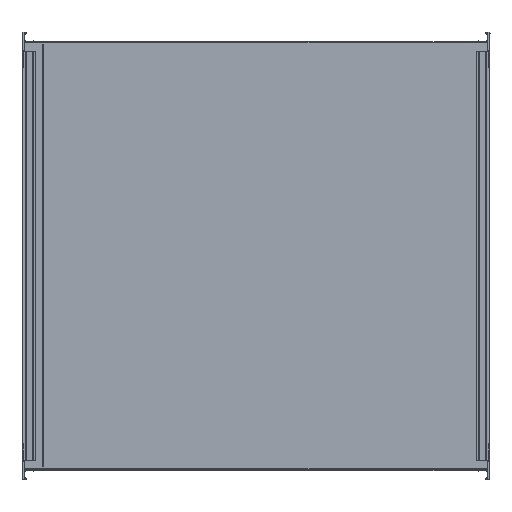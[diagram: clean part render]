
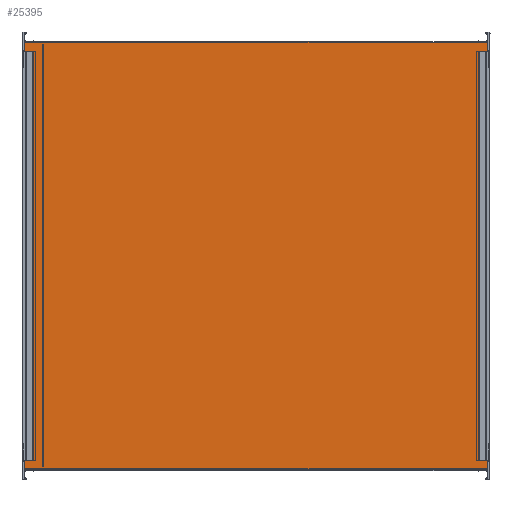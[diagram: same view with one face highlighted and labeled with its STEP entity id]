
A CAD part, top view. The second image highlights one B-rep face of the part: STEP entity #25395.
In plain terms, the highlighted planar face has unit normal (0, 0, 1).
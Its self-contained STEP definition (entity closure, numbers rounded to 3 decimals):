
#968=FACE_BOUND('',#4040,.T.);
#969=FACE_BOUND('',#4041,.T.);
#2752=FACE_OUTER_BOUND('',#4039,.T.);
#4039=EDGE_LOOP('',(#22554,#22555,#22556,#22557,#22558,#22559));
#4040=EDGE_LOOP('',(#22560,#22561,#22562,#22563));
#4041=EDGE_LOOP('',(#22564,#22565,#22566,#22567));
#4117=LINE('',#32438,#6812);
#4880=LINE('',#34611,#7575);
#4911=LINE('',#34690,#7606);
#4935=LINE('',#34737,#7630);
#4937=LINE('',#34740,#7632);
#5359=LINE('',#35737,#8054);
#5377=LINE('',#35790,#8072);
#5432=LINE('',#35931,#8127);
#5434=LINE('',#35934,#8129);
#5984=LINE('',#37217,#8679);
#5993=LINE('',#37234,#8688);
#6003=LINE('',#37252,#8698);
#6319=LINE('',#39440,#9014);
#6719=LINE('',#43103,#9414);
#6812=VECTOR('',#26939,10.);
#7575=VECTOR('',#28538,10.);
#7606=VECTOR('',#28607,10.);
#7630=VECTOR('',#28677,10.);
#7632=VECTOR('',#28681,10.);
#8054=VECTOR('',#29573,10.);
#8072=VECTOR('',#29617,10.);
#8127=VECTOR('',#29770,10.);
#8129=VECTOR('',#29774,10.);
#8679=VECTOR('',#31032,10.);
#8688=VECTOR('',#31047,10.);
#8698=VECTOR('',#31059,10.);
#9014=VECTOR('',#31545,10.);
#9414=VECTOR('',#32133,10.);
#9532=VERTEX_POINT('',#32403);
#9548=VERTEX_POINT('',#32435);
#9549=VERTEX_POINT('',#32437);
#10172=VERTEX_POINT('',#34608);
#10173=VERTEX_POINT('',#34610);
#10189=VERTEX_POINT('',#34642);
#10541=VERTEX_POINT('',#35734);
#10542=VERTEX_POINT('',#35736);
#10563=VERTEX_POINT('',#35787);
#10564=VERTEX_POINT('',#35789);
#10980=VERTEX_POINT('',#37216);
#10985=VERTEX_POINT('',#37232);
#10991=VERTEX_POINT('',#37249);
#10992=VERTEX_POINT('',#37251);
#11918=EDGE_CURVE('',#9549,#9548,#4117,.T.);
#12838=EDGE_CURVE('',#10173,#10172,#4880,.T.);
#12879=EDGE_CURVE('',#9532,#10189,#4911,.T.);
#12903=EDGE_CURVE('',#10172,#9549,#4935,.T.);
#12905=EDGE_CURVE('',#10173,#9548,#4937,.T.);
#13410=EDGE_CURVE('',#10542,#10541,#5359,.T.);
#13438=EDGE_CURVE('',#10564,#10563,#5377,.T.);
#13510=EDGE_CURVE('',#10541,#10564,#5432,.T.);
#13512=EDGE_CURVE('',#10542,#10563,#5434,.T.);
#14158=EDGE_CURVE('',#10189,#10980,#5984,.T.);
#14167=EDGE_CURVE('',#10985,#9532,#5993,.T.);
#14177=EDGE_CURVE('',#10991,#10992,#6003,.T.);
#14675=EDGE_CURVE('',#10980,#10991,#6319,.T.);
#15409=EDGE_CURVE('',#10985,#10992,#6719,.T.);
#22554=ORIENTED_EDGE('',*,*,#15409,.T.);
#22555=ORIENTED_EDGE('',*,*,#14177,.F.);
#22556=ORIENTED_EDGE('',*,*,#14675,.F.);
#22557=ORIENTED_EDGE('',*,*,#14158,.F.);
#22558=ORIENTED_EDGE('',*,*,#12879,.F.);
#22559=ORIENTED_EDGE('',*,*,#14167,.F.);
#22560=ORIENTED_EDGE('',*,*,#11918,.T.);
#22561=ORIENTED_EDGE('',*,*,#12905,.F.);
#22562=ORIENTED_EDGE('',*,*,#12838,.T.);
#22563=ORIENTED_EDGE('',*,*,#12903,.T.);
#22564=ORIENTED_EDGE('',*,*,#13438,.T.);
#22565=ORIENTED_EDGE('',*,*,#13512,.F.);
#22566=ORIENTED_EDGE('',*,*,#13410,.T.);
#22567=ORIENTED_EDGE('',*,*,#13510,.T.);
#23356=PLANE('',#26752);
#25395=ADVANCED_FACE('',(#2752,#968,#969),#23356,.T.);
#26752=AXIS2_PLACEMENT_3D('',#43106,#32138,#32139);
#26939=DIRECTION('',(-1.,0.,0.));
#28538=DIRECTION('',(1.,0.,0.));
#28607=DIRECTION('',(0.,1.,0.));
#28677=DIRECTION('',(0.,-1.,0.));
#28681=DIRECTION('',(0.,-1.,0.));
#29573=DIRECTION('',(-1.,0.,0.));
#29617=DIRECTION('',(1.,0.,0.));
#29770=DIRECTION('',(0.,1.,0.));
#29774=DIRECTION('',(0.,1.,0.));
#31032=DIRECTION('',(0.,1.,0.));
#31047=DIRECTION('',(0.,1.,0.));
#31059=DIRECTION('',(0.,-1.,0.));
#31545=DIRECTION('',(1.,0.,0.));
#32133=DIRECTION('',(1.,0.,0.));
#32138=DIRECTION('center_axis',(0.,0.,1.));
#32139=DIRECTION('ref_axis',(1.,0.,0.));
#32403=CARTESIAN_POINT('',(-878.,16.4,1.5));
#32435=CARTESIAN_POINT('',(-871.233,16.4,1.5));
#32437=CARTESIAN_POINT('',(-858.936,16.4,1.5));
#32438=CARTESIAN_POINT('',(-655.011,16.4,1.5));
#34608=CARTESIAN_POINT('',(-858.936,786.4,1.5));
#34610=CARTESIAN_POINT('',(-871.233,786.4,1.5));
#34611=CARTESIAN_POINT('',(-655.011,786.4,1.5));
#34642=CARTESIAN_POINT('',(-878.,786.4,1.5));
#34690=CARTESIAN_POINT('',(-878.,0.,1.5));
#34737=CARTESIAN_POINT('',(-858.936,786.4,1.5));
#34740=CARTESIAN_POINT('',(-871.233,786.4,1.5));
#35734=CARTESIAN_POINT('',(-18.664,16.4,1.5));
#35736=CARTESIAN_POINT('',(-6.367,16.4,1.5));
#35737=CARTESIAN_POINT('',(-222.789,16.4,1.5));
#35787=CARTESIAN_POINT('',(-6.367,786.4,1.5));
#35789=CARTESIAN_POINT('',(-18.664,786.4,1.5));
#35790=CARTESIAN_POINT('',(-222.789,786.4,1.5));
#35931=CARTESIAN_POINT('',(-18.664,16.4,1.5));
#35934=CARTESIAN_POINT('',(-6.367,16.4,1.5));
#37216=CARTESIAN_POINT('',(-878.,803.,1.5));
#37217=CARTESIAN_POINT('',(-878.,0.,1.5));
#37232=CARTESIAN_POINT('',(-878.,0.,1.5));
#37234=CARTESIAN_POINT('',(-878.,0.,1.5));
#37249=CARTESIAN_POINT('',(0.,803.,1.5));
#37251=CARTESIAN_POINT('',(0.,0.,1.5));
#37252=CARTESIAN_POINT('',(0.,803.,1.5));
#39440=CARTESIAN_POINT('',(-658.5,803.,1.5));
#43103=CARTESIAN_POINT('',(-219.5,0.,1.5));
#43106=CARTESIAN_POINT('Origin',(-439.,401.5,1.5));
